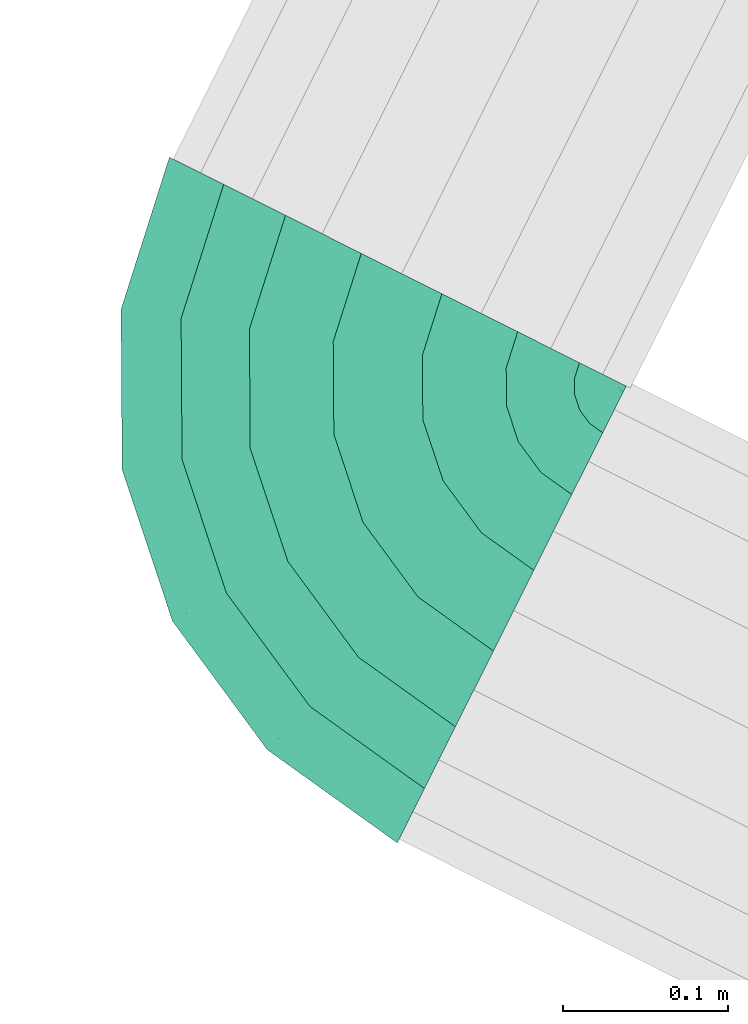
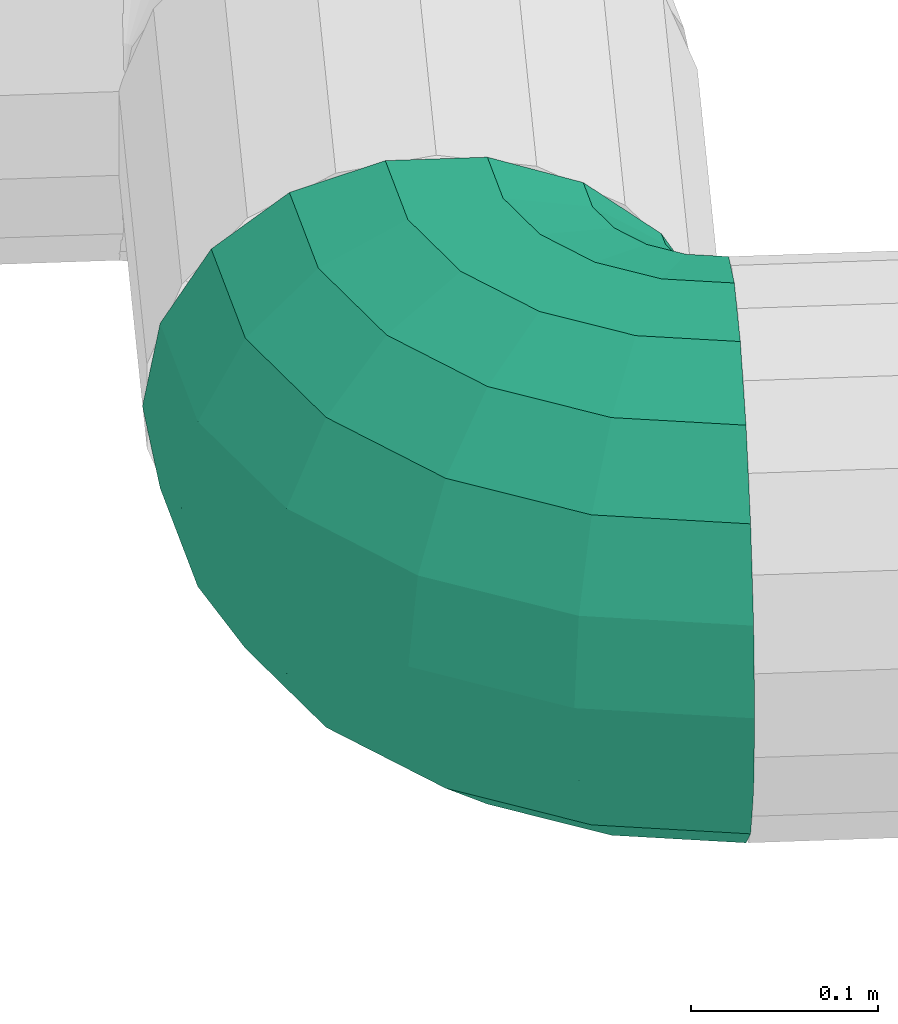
# One storey, part 33 of 206: 1 flow segment.
"""IFC2X3 building model written with IfcOpenShell, lengths in metres."""

from ifc_helpers import new_model, si_unit, derived_unit, direction, frame, origin, place, context, subcontext, project, spatial, face_set, surface_model, source, transform, mapped, material, type_object, type_shapes, element, save


model = new_model("IFC2X3")

# Units and contexts
model_context = context("Model", 3, precision=5.2338327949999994e-05, world=origin(), true_north=direction((0.0, 1.0)))
body_context = subcontext(model_context, "Body", "Model", "MODEL_VIEW")
ifc_project = project(units=[si_unit("LENGTHUNIT", "METRE"), si_unit("AREAUNIT", "SQUARE_METRE"), si_unit("VOLUMEUNIT", "CUBIC_METRE"), si_unit("MASSUNIT", "GRAM", prefix="KILO"), si_unit("PLANEANGLEUNIT", "RADIAN"), derived_unit("THERMALTRANSMITTANCEUNIT", [(si_unit("MASSUNIT", "GRAM", prefix="KILO"), 1), (si_unit("THERMODYNAMICTEMPERATUREUNIT", "KELVIN"), -1), (si_unit("TIMEUNIT", "SECOND"), -3)])], contexts=[model_context])

# Site, building, storey
site_placement = place(None, frame((0.0, 0.0, 0.0), z_axis=(0.0, 0.0, 1.0), x_axis=(0.8939966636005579, -0.4480736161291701, 0.0)))
site = spatial("IfcSite", under=ifc_project, at=site_placement, Name="Default", CompositionType="ELEMENT")
building_placement = place(site_placement, origin())
building = spatial("IfcBuilding", under=site, at=building_placement, CompositionType="ELEMENT")
storey_placement = place(building_placement, origin())
storey = spatial("IfcBuildingStorey", under=building, at=storey_placement, Name="Erdgeschoss", CompositionType="ELEMENT", Elevation=0.0)

# Flow segment
ifc_material = material(Name="IfcSurfaceStyle #9317")
distribution_element_type = type_object("IfcDistributionElementType", Name="Rohrbogen 292945:Rohrbogen 292945", material=ifc_material)
shared_shape = source(origin(), body_context, "Body", "SurfaceModel", [
    surface_model("IfcFaceBasedSurfaceModel", [(17.139298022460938, 6.719254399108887, 2.317798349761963), (17.203928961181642, 6.709017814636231, 2.317798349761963), (17.14036307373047, 6.7225321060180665, 2.3373448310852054), (17.203928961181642, 6.7124646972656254, 2.3373448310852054), (17.080993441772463, 6.748961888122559, 2.317798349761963), (17.083018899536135, 6.751750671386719, 2.3373448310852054), (17.034723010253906, 6.795232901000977, 2.317798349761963), (17.037511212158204, 6.7972583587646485, 2.3373448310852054), (17.005015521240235, 6.8535369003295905, 2.317798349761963), (17.008293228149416, 6.854601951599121, 2.3373448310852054), (16.994778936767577, 6.918167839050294, 2.317798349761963), (16.99822523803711, 6.918167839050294, 2.3373448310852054), (17.203928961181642, 6.722388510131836, 2.354533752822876), (17.143429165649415, 6.731970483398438, 2.354533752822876), (17.0888522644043, 6.759779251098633, 2.354533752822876), (17.04553979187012, 6.803091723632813, 2.354533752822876), (17.017731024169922, 6.85766862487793, 2.354533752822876), (17.00814905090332, 6.918167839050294, 2.354533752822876), (17.203928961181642, 6.737592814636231, 2.3672916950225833), (17.148127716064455, 6.746431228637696, 2.3672916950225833), (17.097788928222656, 6.772079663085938, 2.3672916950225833), (17.057840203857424, 6.812028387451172, 2.3672916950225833), (17.03219176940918, 6.862367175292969, 2.3672916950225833), (17.023353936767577, 6.918167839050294, 2.3672916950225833), (17.153891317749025, 6.76416909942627, 2.3740802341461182), (17.203928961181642, 6.75624400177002, 2.3740802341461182), (17.108752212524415, 6.787168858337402, 2.3740802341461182), (17.072928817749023, 6.82299167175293, 2.3740802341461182), (17.04992905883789, 6.868130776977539, 2.3740802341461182), (17.042003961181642, 6.918167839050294, 2.3740802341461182), (17.16002466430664, 6.783045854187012, 2.3740802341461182), (17.203928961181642, 6.7760922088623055, 2.3740802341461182), (17.120417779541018, 6.803226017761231, 2.3740802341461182), (17.088985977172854, 6.834657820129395, 2.3740802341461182), (17.068805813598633, 6.8742641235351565, 2.3740802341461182), (17.06185274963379, 6.918167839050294, 2.3740802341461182), (17.203928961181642, 6.794742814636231, 2.3672916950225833), (17.16578826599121, 6.800783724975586, 2.3672916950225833), (17.131381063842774, 6.818315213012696, 2.3672916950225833), (17.10407575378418, 6.84562052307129, 2.3672916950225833), (17.086544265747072, 6.880027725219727, 2.3672916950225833), (17.080503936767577, 6.918167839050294, 2.3672916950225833), (17.17048681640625, 6.8152438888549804, 2.354533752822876), (17.203928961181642, 6.809947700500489, 2.354533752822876), (17.140317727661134, 6.830615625, 2.354533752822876), (17.116376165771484, 6.854557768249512, 2.354533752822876), (17.10100501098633, 6.884725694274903, 2.354533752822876), (17.09570765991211, 6.918167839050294, 2.354533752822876), (17.173552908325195, 6.824682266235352, 2.3373448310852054), (17.203928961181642, 6.819871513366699, 2.3373448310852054), (17.146151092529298, 6.8386442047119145, 2.3373448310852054), (17.1244047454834, 6.8603905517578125, 2.3373448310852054), (17.110442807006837, 6.8877929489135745, 2.3373448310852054), (17.10563147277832, 6.918167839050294, 2.3373448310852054), (17.174617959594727, 6.827959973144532, 2.317798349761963), (17.203928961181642, 6.823317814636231, 2.317798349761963), (17.14817655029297, 6.8414329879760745, 2.317798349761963), (17.127192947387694, 6.862416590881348, 2.317798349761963), (17.113720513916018, 6.888858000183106, 2.317798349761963), (17.109078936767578, 6.918167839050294, 2.317798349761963), (17.203928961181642, 6.819871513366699, 2.298252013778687), (17.173552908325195, 6.824682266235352, 2.298252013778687), (17.146151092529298, 6.8386442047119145, 2.298252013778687), (17.1244047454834, 6.8603905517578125, 2.298252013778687), (17.110442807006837, 6.8877929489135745, 2.298252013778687), (17.10563147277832, 6.918167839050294, 2.298252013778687), (17.203928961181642, 6.809947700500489, 2.2810630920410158), (17.17048681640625, 6.8152438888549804, 2.2810630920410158), (17.140317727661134, 6.830615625, 2.2810630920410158), (17.116376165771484, 6.854557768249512, 2.2810630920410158), (17.10100501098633, 6.884725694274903, 2.2810630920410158), (17.09570765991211, 6.918167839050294, 2.2810630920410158), (17.203928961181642, 6.794742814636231, 2.268305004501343), (17.16578826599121, 6.800783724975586, 2.268305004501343), (17.131381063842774, 6.818315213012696, 2.268305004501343), (17.10407575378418, 6.84562052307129, 2.268305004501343), (17.086544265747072, 6.880027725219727, 2.268305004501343), (17.080503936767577, 6.918167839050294, 2.268305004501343), (17.16002466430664, 6.783045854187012, 2.2615166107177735), (17.203928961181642, 6.7760922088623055, 2.2615166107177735), (17.120417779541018, 6.803226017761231, 2.2615166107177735), (17.088985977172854, 6.834657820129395, 2.2615166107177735), (17.068805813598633, 6.8742641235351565, 2.2615166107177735), (17.06185274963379, 6.918167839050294, 2.2615166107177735), (17.203928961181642, 6.75624400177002, 2.2615166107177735), (17.153891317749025, 6.76416909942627, 2.2615166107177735), (17.108752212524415, 6.787168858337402, 2.2615166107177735), (17.072928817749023, 6.82299167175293, 2.2615166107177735), (17.04992905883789, 6.868130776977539, 2.2615166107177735), (17.042003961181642, 6.918167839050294, 2.2615166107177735), (17.203928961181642, 6.737592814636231, 2.268305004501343), (17.148127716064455, 6.746431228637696, 2.268305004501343), (17.097788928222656, 6.772079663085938, 2.268305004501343), (17.057840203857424, 6.812028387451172, 2.268305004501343), (17.03219176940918, 6.862367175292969, 2.268305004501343), (17.023353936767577, 6.918167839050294, 2.268305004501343), (17.143429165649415, 6.731970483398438, 2.2810630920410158), (17.203928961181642, 6.722388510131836, 2.2810630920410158), (17.0888522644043, 6.759779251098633, 2.2810630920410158), (17.04553979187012, 6.803091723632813, 2.2810630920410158), (17.017731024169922, 6.85766862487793, 2.2810630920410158), (17.00814905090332, 6.918167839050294, 2.2810630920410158), (17.14036307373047, 6.7225321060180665, 2.298252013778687), (17.203928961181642, 6.7124646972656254, 2.298252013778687), (17.083018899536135, 6.751750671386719, 2.298252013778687), (17.037511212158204, 6.7972583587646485, 2.298252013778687), (17.10839525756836, 6.6241485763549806, 2.317798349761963), (17.203928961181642, 6.609018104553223, 2.317798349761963), (17.203928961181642, 6.618495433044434, 2.3715468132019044), (17.11132414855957, 6.633162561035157, 2.3715468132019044), (17.022214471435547, 6.668060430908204, 2.317798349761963), (17.02778506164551, 6.675727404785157, 2.3715468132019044), (16.95382097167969, 6.736453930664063, 2.317798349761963), (16.96148794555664, 6.742024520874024, 2.3715468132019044), (16.909909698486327, 6.822635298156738, 2.317798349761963), (16.91892310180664, 6.82556418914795, 2.3715468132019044), (16.894778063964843, 6.918167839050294, 2.317798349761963), (16.904255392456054, 6.918167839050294, 2.3715468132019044), (17.11975735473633, 6.659115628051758, 2.4188125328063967), (17.203928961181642, 6.645783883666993, 2.4188125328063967), (17.04382478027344, 6.697804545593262, 2.4188125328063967), (16.98356566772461, 6.758064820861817, 2.4188125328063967), (16.944876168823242, 6.833996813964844, 2.4188125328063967), (16.931544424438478, 6.918167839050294, 2.4188125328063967), (17.203928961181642, 6.687592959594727, 2.453894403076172), (17.132676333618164, 6.698878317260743, 2.453894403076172), (17.068400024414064, 6.731628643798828, 2.453894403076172), (17.017389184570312, 6.782639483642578, 2.453894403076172), (16.984638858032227, 6.846916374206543, 2.453894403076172), (16.973353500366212, 6.918167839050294, 2.453894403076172), (17.203928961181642, 6.738879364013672, 2.472560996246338), (17.14852536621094, 6.747654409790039, 2.472560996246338), (17.09854469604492, 6.773120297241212, 2.472560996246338), (17.058880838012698, 6.812784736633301, 2.472560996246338), (17.033414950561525, 6.862764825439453, 2.472560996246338), (17.024639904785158, 6.918167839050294, 2.472560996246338), (17.16539061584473, 6.799560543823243, 2.472560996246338), (17.203928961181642, 6.7934568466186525, 2.472560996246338), (17.130625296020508, 6.817274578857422, 2.472560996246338), (17.103035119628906, 6.844864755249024, 2.472560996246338), (17.085321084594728, 6.879630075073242, 2.472560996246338), (17.079216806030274, 6.918167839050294, 2.472560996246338), (17.203928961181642, 6.844743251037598, 2.453894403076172), (17.181238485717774, 6.848336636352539, 2.453894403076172), (17.16076996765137, 6.858765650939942, 2.453894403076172), (17.14452677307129, 6.875010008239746, 2.453894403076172), (17.134097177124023, 6.895478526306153, 2.453894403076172), (17.13050321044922, 6.918167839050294, 2.453894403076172), (17.194158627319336, 6.888099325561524, 2.4188125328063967), (17.203928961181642, 6.886551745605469, 2.4188125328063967), (17.185345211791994, 6.892589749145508, 2.4188125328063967), (17.17835028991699, 6.899584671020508, 2.4188125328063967), (17.173859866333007, 6.908398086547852, 2.4188125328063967), (17.172312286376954, 6.918167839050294, 2.4188125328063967), (17.203928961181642, 6.913840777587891, 2.3715468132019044), (17.202590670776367, 6.914052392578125, 2.3715468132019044), (17.201384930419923, 6.9146668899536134, 2.3715468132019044), (17.200428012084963, 6.915624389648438, 2.3715468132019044), (17.19981293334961, 6.916830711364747, 2.3715468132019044), (17.199601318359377, 6.918167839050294, 2.3715468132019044), (17.203928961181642, 6.918168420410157, 2.347004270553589), (17.20318482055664, 6.918168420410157, 2.3476719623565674), (17.203928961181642, 6.918168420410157, 2.288592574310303), (17.20318482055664, 6.918168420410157, 2.2879248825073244), (17.202590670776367, 6.914052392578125, 2.2640498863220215), (17.203928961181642, 6.913840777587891, 2.2640498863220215), (17.201384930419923, 6.9146668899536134, 2.2640498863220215), (17.200428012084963, 6.915624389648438, 2.2640498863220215), (17.19981293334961, 6.916830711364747, 2.2640498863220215), (17.199601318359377, 6.918167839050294, 2.2640498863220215), (17.194158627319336, 6.888099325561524, 2.216784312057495), (17.203928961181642, 6.886551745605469, 2.216784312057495), (17.185345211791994, 6.892589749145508, 2.216784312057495), (17.17835028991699, 6.899584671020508, 2.216784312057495), (17.173859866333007, 6.908398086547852, 2.216784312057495), (17.172312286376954, 6.918167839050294, 2.216784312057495), (17.203928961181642, 6.844743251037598, 2.1817025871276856), (17.181238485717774, 6.848336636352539, 2.1817025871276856), (17.16076996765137, 6.858765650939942, 2.1817025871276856), (17.14452677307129, 6.875010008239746, 2.1817025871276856), (17.134097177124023, 6.895478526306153, 2.1817025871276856), (17.13050321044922, 6.918167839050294, 2.1817025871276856), (17.203928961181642, 6.7934568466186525, 2.163035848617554), (17.16539061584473, 6.799560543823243, 2.163035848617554), (17.130625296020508, 6.817274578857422, 2.163035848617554), (17.103035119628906, 6.844864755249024, 2.163035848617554), (17.085321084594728, 6.879630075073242, 2.163035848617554), (17.079216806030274, 6.918167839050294, 2.163035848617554), (17.203928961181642, 6.738879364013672, 2.163035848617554), (17.14852536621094, 6.747654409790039, 2.163035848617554), (17.09854469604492, 6.773120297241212, 2.163035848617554), (17.058880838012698, 6.812784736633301, 2.163035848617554), (17.033414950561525, 6.862764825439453, 2.163035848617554), (17.024639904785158, 6.918167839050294, 2.163035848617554), (17.132676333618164, 6.698878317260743, 2.1817025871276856), (17.203928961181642, 6.687592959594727, 2.1817025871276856), (17.068400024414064, 6.731628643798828, 2.1817025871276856), (17.017389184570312, 6.782639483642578, 2.1817025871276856), (16.984638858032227, 6.846916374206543, 2.1817025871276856), (16.973353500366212, 6.918167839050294, 2.1817025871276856), (17.203928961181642, 6.645783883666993, 2.216784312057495), (17.11975735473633, 6.659115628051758, 2.216784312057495), (17.04382478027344, 6.697804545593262, 2.216784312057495), (16.98356566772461, 6.758064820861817, 2.216784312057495), (16.944876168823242, 6.833996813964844, 2.216784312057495), (16.931544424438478, 6.918167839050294, 2.216784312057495), (17.203928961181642, 6.618495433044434, 2.2640498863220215), (17.11132414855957, 6.633162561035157, 2.2640498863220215), (17.02778506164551, 6.675727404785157, 2.2640498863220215), (16.96148794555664, 6.742024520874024, 2.2640498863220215), (16.91892310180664, 6.82556418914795, 2.2640498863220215), (16.904255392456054, 6.918167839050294, 2.2640498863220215), (17.008293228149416, 6.854601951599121, 2.298252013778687), (16.99822523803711, 6.918167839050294, 2.298252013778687)], [face_set([[[0, 1, 2]], [[3, 2, 1]], [[4, 0, 5]], [[2, 5, 0]], [[6, 4, 7]], [[5, 7, 4]], [[8, 6, 7]], [[7, 9, 8]], [[10, 8, 9]], [[9, 11, 10]], [[2, 3, 12]], [[12, 13, 2]], [[5, 2, 14]], [[13, 14, 2]], [[7, 5, 15]], [[14, 15, 5]], [[9, 7, 16]], [[15, 16, 7]], [[11, 9, 17]], [[16, 17, 9]], [[13, 12, 18]], [[18, 19, 13]], [[14, 13, 19]], [[19, 20, 14]], [[15, 14, 21]], [[20, 21, 14]], [[16, 15, 21]], [[21, 22, 16]], [[17, 16, 22]], [[22, 23, 17]], [[19, 18, 24]], [[25, 24, 18]], [[20, 19, 26]], [[24, 26, 19]], [[21, 20, 26]], [[26, 27, 21]], [[22, 21, 27]], [[27, 28, 22]], [[23, 22, 28]], [[28, 29, 23]], [[24, 25, 30]], [[31, 30, 25]], [[26, 24, 32]], [[30, 32, 24]], [[27, 26, 32]], [[32, 33, 27]], [[28, 27, 33]], [[33, 34, 28]], [[29, 28, 35]], [[34, 35, 28]], [[30, 31, 36]], [[36, 37, 30]], [[32, 30, 37]], [[37, 38, 32]], [[33, 32, 39]], [[38, 39, 32]], [[34, 33, 40]], [[39, 40, 33]], [[35, 34, 41]], [[40, 41, 34]], [[37, 36, 42]], [[43, 42, 36]], [[38, 37, 44]], [[42, 44, 37]], [[39, 38, 45]], [[44, 45, 38]], [[40, 39, 46]], [[45, 46, 39]], [[41, 40, 47]], [[46, 47, 40]], [[42, 43, 48]], [[49, 48, 43]], [[44, 42, 48]], [[48, 50, 44]], [[45, 44, 50]], [[50, 51, 45]], [[46, 45, 51]], [[51, 52, 46]], [[47, 46, 52]], [[52, 53, 47]], [[48, 49, 54]], [[55, 54, 49]], [[50, 48, 56]], [[54, 56, 48]], [[51, 50, 56]], [[56, 57, 51]], [[52, 51, 57]], [[57, 58, 52]], [[53, 52, 58]], [[58, 59, 53]], [[54, 55, 60]], [[60, 61, 54]], [[56, 54, 61]], [[61, 62, 56]], [[57, 56, 63]], [[62, 63, 56]], [[58, 57, 64]], [[63, 64, 57]], [[59, 58, 65]], [[64, 65, 58]], [[61, 60, 66]], [[66, 67, 61]], [[62, 61, 68]], [[67, 68, 61]], [[63, 62, 68]], [[68, 69, 63]], [[64, 63, 69]], [[69, 70, 64]], [[65, 64, 71]], [[70, 71, 64]], [[67, 66, 72]], [[72, 73, 67]], [[68, 67, 73]], [[73, 74, 68]], [[69, 68, 75]], [[74, 75, 68]], [[70, 69, 76]], [[75, 76, 69]], [[71, 70, 76]], [[76, 77, 71]], [[73, 72, 78]], [[79, 78, 72]], [[74, 73, 80]], [[78, 80, 73]], [[75, 74, 81]], [[80, 81, 74]], [[76, 75, 82]], [[81, 82, 75]], [[77, 76, 82]], [[82, 83, 77]], [[78, 79, 84]], [[84, 85, 78]], [[80, 78, 85]], [[85, 86, 80]], [[81, 80, 86]], [[86, 87, 81]], [[82, 81, 88]], [[87, 88, 81]], [[83, 82, 88]], [[88, 89, 83]], [[85, 84, 90]], [[90, 91, 85]], [[86, 85, 92]], [[91, 92, 85]], [[87, 86, 93]], [[92, 93, 86]], [[88, 87, 94]], [[93, 94, 87]], [[89, 88, 95]], [[94, 95, 88]], [[91, 90, 96]], [[97, 96, 90]], [[92, 91, 96]], [[96, 98, 92]], [[93, 92, 98]], [[98, 99, 93]], [[94, 93, 100]], [[99, 100, 93]], [[95, 94, 100]], [[100, 101, 95]], [[96, 97, 102]], [[103, 102, 97]], [[98, 96, 102]], [[102, 104, 98]], [[99, 98, 104]], [[104, 105, 99]], [[102, 103, 1]], [[1, 0, 102]], [[104, 102, 0]], [[0, 4, 104]], [[105, 104, 4]], [[4, 6, 105]], [[106, 107, 108]], [[108, 109, 106]], [[110, 106, 111]], [[109, 111, 106]], [[112, 110, 113]], [[111, 113, 110]], [[114, 112, 113]], [[113, 115, 114]], [[116, 114, 117]], [[115, 117, 114]], [[109, 108, 118]], [[119, 118, 108]], [[111, 109, 120]], [[118, 120, 109]], [[113, 111, 120]], [[120, 121, 113]], [[115, 113, 121]], [[121, 122, 115]], [[117, 115, 122]], [[122, 123, 117]], [[118, 119, 124]], [[124, 125, 118]], [[120, 118, 125]], [[125, 126, 120]], [[121, 120, 126]], [[126, 127, 121]], [[122, 121, 127]], [[127, 128, 122]], [[123, 122, 128]], [[128, 129, 123]], [[125, 124, 130]], [[130, 131, 125]], [[126, 125, 131]], [[131, 132, 126]], [[127, 126, 132]], [[132, 133, 127]], [[128, 127, 134]], [[133, 134, 127]], [[129, 128, 135]], [[134, 135, 128]], [[131, 130, 136]], [[137, 136, 130]], [[132, 131, 136]], [[136, 138, 132]], [[133, 132, 138]], [[138, 139, 133]], [[134, 133, 139]], [[139, 140, 134]], [[135, 134, 140]], [[140, 141, 135]], [[136, 137, 142]], [[142, 143, 136]], [[138, 136, 143]], [[143, 144, 138]], [[139, 138, 144]], [[144, 145, 139]], [[140, 139, 146]], [[145, 146, 139]], [[141, 140, 146]], [[146, 147, 141]], [[143, 142, 148]], [[149, 148, 142]], [[144, 143, 150]], [[148, 150, 143]], [[145, 144, 151]], [[150, 151, 144]], [[146, 145, 151]], [[151, 152, 146]], [[147, 146, 153]], [[152, 153, 146]], [[148, 149, 154]], [[154, 155, 148]], [[150, 148, 156]], [[155, 156, 148]], [[151, 150, 156]], [[156, 157, 151]], [[152, 151, 157]], [[157, 158, 152]], [[153, 152, 158]], [[158, 159, 153]], [[160, 155, 161]], [[160, 161, 154]], [[155, 154, 161]], [[156, 155, 160]], [[157, 156, 160]], [[158, 157, 160]], [[159, 158, 160]], [[162, 163, 164]], [[165, 164, 163]], [[163, 162, 165]], [[164, 166, 162]], [[162, 166, 167]], [[167, 168, 162]], [[168, 169, 162]], [[164, 165, 170]], [[171, 170, 165]], [[166, 164, 170]], [[170, 172, 166]], [[167, 166, 173]], [[172, 173, 166]], [[168, 167, 174]], [[173, 174, 167]], [[169, 168, 174]], [[174, 175, 169]], [[170, 171, 176]], [[176, 177, 170]], [[172, 170, 177]], [[177, 178, 172]], [[173, 172, 178]], [[178, 179, 173]], [[174, 173, 180]], [[179, 180, 173]], [[175, 174, 181]], [[180, 181, 174]], [[177, 176, 182]], [[182, 183, 177]], [[178, 177, 184]], [[183, 184, 177]], [[179, 178, 184]], [[184, 185, 179]], [[180, 179, 186]], [[185, 186, 179]], [[181, 180, 187]], [[186, 187, 180]], [[183, 182, 188]], [[188, 189, 183]], [[184, 183, 190]], [[189, 190, 183]], [[185, 184, 191]], [[190, 191, 184]], [[186, 185, 192]], [[191, 192, 185]], [[187, 186, 193]], [[192, 193, 186]], [[189, 188, 194]], [[195, 194, 188]], [[190, 189, 196]], [[194, 196, 189]], [[191, 190, 197]], [[196, 197, 190]], [[192, 191, 198]], [[197, 198, 191]], [[193, 192, 198]], [[198, 199, 193]], [[194, 195, 200]], [[200, 201, 194]], [[196, 194, 202]], [[201, 202, 194]], [[197, 196, 203]], [[202, 203, 196]], [[198, 197, 204]], [[203, 204, 197]], [[199, 198, 205]], [[204, 205, 198]], [[201, 200, 206]], [[206, 207, 201]], [[202, 201, 207]], [[207, 208, 202]], [[203, 202, 208]], [[208, 209, 203]], [[204, 203, 210]], [[209, 210, 203]], [[205, 204, 211]], [[210, 211, 204]], [[207, 206, 107]], [[107, 106, 207]], [[208, 207, 110]], [[106, 110, 207]], [[209, 208, 112]], [[110, 112, 208]], [[210, 209, 114]], [[112, 114, 209]], [[211, 210, 116]], [[114, 116, 210]], [[100, 99, 212]], [[105, 212, 99]], [[101, 100, 213]], [[212, 213, 100]], [[212, 105, 6]], [[6, 8, 212]], [[213, 212, 8]], [[8, 10, 213]]])]),
])
type_shapes(distribution_element_type, [shared_shape])
flow_segment_placement = place(storey_placement, origin())
element("IfcFlowSegment", 1, at=flow_segment_placement, inside=storey, type_object=distribution_element_type, material=ifc_material, Name="Rohrbogen", ObjectType="Rohrbogen", context=body_context, shape_type="MappedRepresentation", body=[
    mapped(shared_shape, transform((0.0, 0.0, 0.0), scale=1.0)),
])

save(model, "model.ifc")
